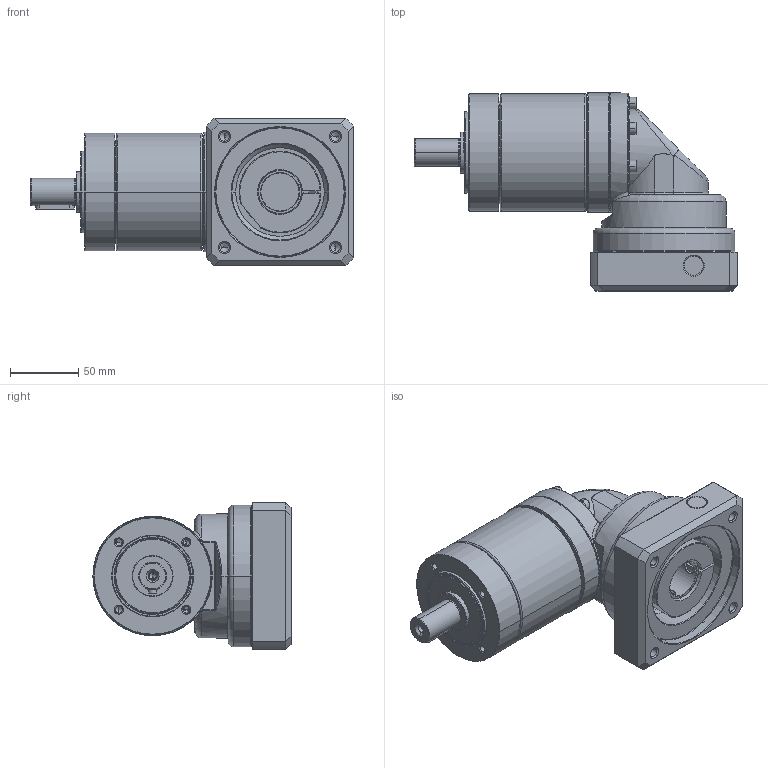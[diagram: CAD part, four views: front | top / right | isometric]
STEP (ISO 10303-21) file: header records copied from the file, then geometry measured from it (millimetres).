
FILE_DESCRIPTION((''),'2;1');
FILE_NAME('PG2R-080_2ST_28-P0411600101_ASM','2016-04-25T',('d01943'),(''),'PRO/ENGINEER BY PARAMETRIC TECHNOLOGY CORPORATION, 2008410','PRO/ENGINEER BY PARAMETRIC TECHNOLOGY CORPORATION, 2008410','');
FILE_SCHEMA(('CONFIG_CONTROL_DESIGN'));
Length unit declared in the file: millimetre
Products named in the file (12): P1325310001; P0251300001; P0350301103; P1349300001; P1017300001; P0713303001; P0503600008; P1350300301; P0411600101; P1702500001; 2111BA05025; PG2R-080_2ST_28-P0411600101_ASM
Assembly tree (16 placements, depth 2):
  PG2R-080_2ST_28-P0411600101_ASM
    P1325310001
    P0251300001
    P0350301103
    P1349300001
    P1017300001
    P0713303001
    P0503600008
    P1350300301
    P0411600101
    P1702500001
    2111BA05025  x6
Bounding box: 237 x 145.25 x 108 mm (x, y, z)
Volume: 931792.9 mm3; surface area: 229407.8 mm2
Topology: 16 solids, 17 shells, 778 faces, 1700 edges, 988 vertices
Faces by surface type: cylinder 244, cone 214, plane 192, torus 96, bspline 32
Entity records: 22625 total; most frequent: CARTESIAN_POINT 8829, DIRECTION 3077, ORIENTED_EDGE 2648, EDGE_CURVE 1324, AXIS2_PLACEMENT_3D 1300, VERTEX_POINT 788, EDGE_LOOP 698, CIRCLE 691
